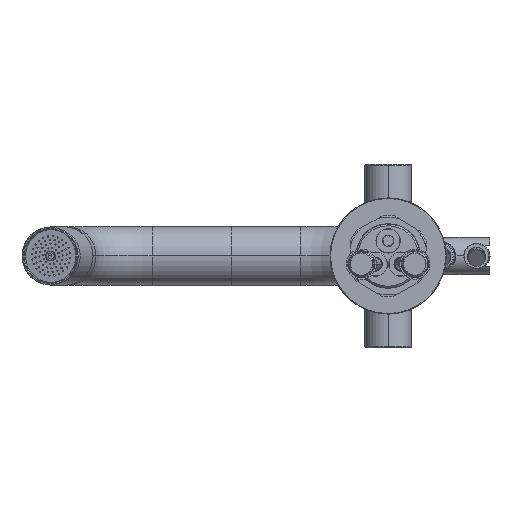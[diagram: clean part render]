
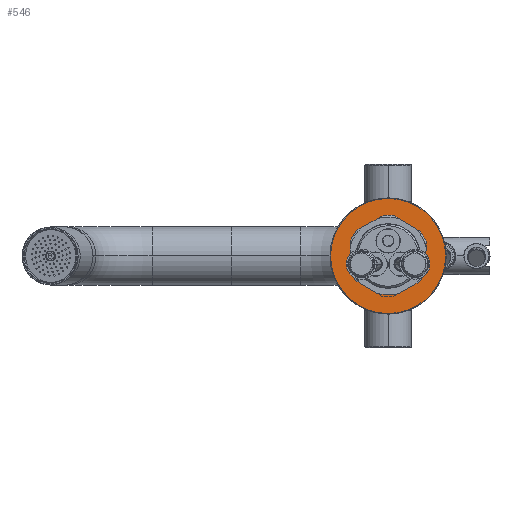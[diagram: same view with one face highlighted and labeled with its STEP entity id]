
A CAD part, front view. The second image highlights one B-rep face of the part: STEP entity #546.
In plain terms, the highlighted planar face has unit normal (0, -1, 0).
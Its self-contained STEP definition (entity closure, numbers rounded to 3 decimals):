
#113 = DIRECTION ( 'NONE',  ( 0., -1., 0. ) ) ;
#145 = FACE_OUTER_BOUND ( 'NONE', #17243, .T. ) ;
#546 = ADVANCED_FACE ( 'NONE', ( #16413, #145 ), #6085, .F. ) ;
#692 = VERTEX_POINT ( 'NONE', #16990 ) ;
#1440 = CARTESIAN_POINT ( 'NONE',  ( -76.288, 155.205, 1077.65 ) ) ;
#2842 = ORIENTED_EDGE ( 'NONE', *, *, #8396, .F. ) ;
#2851 = VERTEX_POINT ( 'NONE', #16803 ) ;
#3153 = DIRECTION ( 'NONE',  ( 0., 1., 0. ) ) ;
#3323 = AXIS2_PLACEMENT_3D ( 'NONE', #3695, #11210, #8386 ) ;
#3504 = DIRECTION ( 'NONE',  ( 0., 0., 1. ) ) ;
#3695 = CARTESIAN_POINT ( 'NONE',  ( -76.288, 155.205, 1050. ) ) ;
#3885 = CIRCLE ( 'NONE', #13858, 27.65 ) ;
#4054 = CARTESIAN_POINT ( 'NONE',  ( -100.788, 155.205, 1050. ) ) ;
#5159 = EDGE_CURVE ( 'NONE', #692, #11086, #3885, .T. ) ;
#5579 = ORIENTED_EDGE ( 'NONE', *, *, #6717, .T. ) ;
#5815 = CIRCLE ( 'NONE', #18600, 27.65 ) ;
#6085 = PLANE ( 'NONE',  #6106 ) ;
#6106 = AXIS2_PLACEMENT_3D ( 'NONE', #4054, #3153, #15945 ) ;
#6717 = EDGE_CURVE ( 'NONE', #2851, #11295, #11721, .T. ) ;
#7821 = AXIS2_PLACEMENT_3D ( 'NONE', #13351, #113, #14718 ) ;
#8386 = DIRECTION ( 'NONE',  ( 0., 0., 1. ) ) ;
#8396 = EDGE_CURVE ( 'NONE', #11086, #692, #5815, .T. ) ;
#8796 = DIRECTION ( 'NONE',  ( 0., 0., 1. ) ) ;
#9273 = CARTESIAN_POINT ( 'NONE',  ( -76.288, 155.205, 1099.5 ) ) ;
#9360 = CARTESIAN_POINT ( 'NONE',  ( -76.288, 155.205, 1050. ) ) ;
#9425 = ORIENTED_EDGE ( 'NONE', *, *, #5159, .F. ) ;
#10821 = DIRECTION ( 'NONE',  ( 0., -1., 0. ) ) ;
#10862 = EDGE_LOOP ( 'NONE', ( #9425, #2842 ) ) ;
#11086 = VERTEX_POINT ( 'NONE', #1440 ) ;
#11210 = DIRECTION ( 'NONE',  ( 0., -1., 0. ) ) ;
#11295 = VERTEX_POINT ( 'NONE', #9273 ) ;
#11545 = CIRCLE ( 'NONE', #7821, 49.5 ) ;
#11721 = CIRCLE ( 'NONE', #3323, 49.5 ) ;
#11899 = ORIENTED_EDGE ( 'NONE', *, *, #13246, .T. ) ;
#13246 = EDGE_CURVE ( 'NONE', #11295, #2851, #11545, .T. ) ;
#13351 = CARTESIAN_POINT ( 'NONE',  ( -76.288, 155.205, 1050. ) ) ;
#13579 = CARTESIAN_POINT ( 'NONE',  ( -76.288, 155.205, 1050. ) ) ;
#13858 = AXIS2_PLACEMENT_3D ( 'NONE', #13579, #19260, #8796 ) ;
#14718 = DIRECTION ( 'NONE',  ( 0., 0., 1. ) ) ;
#15945 = DIRECTION ( 'NONE',  ( 1., 0., 0. ) ) ;
#16413 = FACE_BOUND ( 'NONE', #10862, .T. ) ;
#16803 = CARTESIAN_POINT ( 'NONE',  ( -76.288, 155.205, 1000.5 ) ) ;
#16990 = CARTESIAN_POINT ( 'NONE',  ( -76.288, 155.205, 1022.35 ) ) ;
#17243 = EDGE_LOOP ( 'NONE', ( #11899, #5579 ) ) ;
#18600 = AXIS2_PLACEMENT_3D ( 'NONE', #9360, #10821, #3504 ) ;
#19260 = DIRECTION ( 'NONE',  ( 0., -1., 0. ) ) ;
